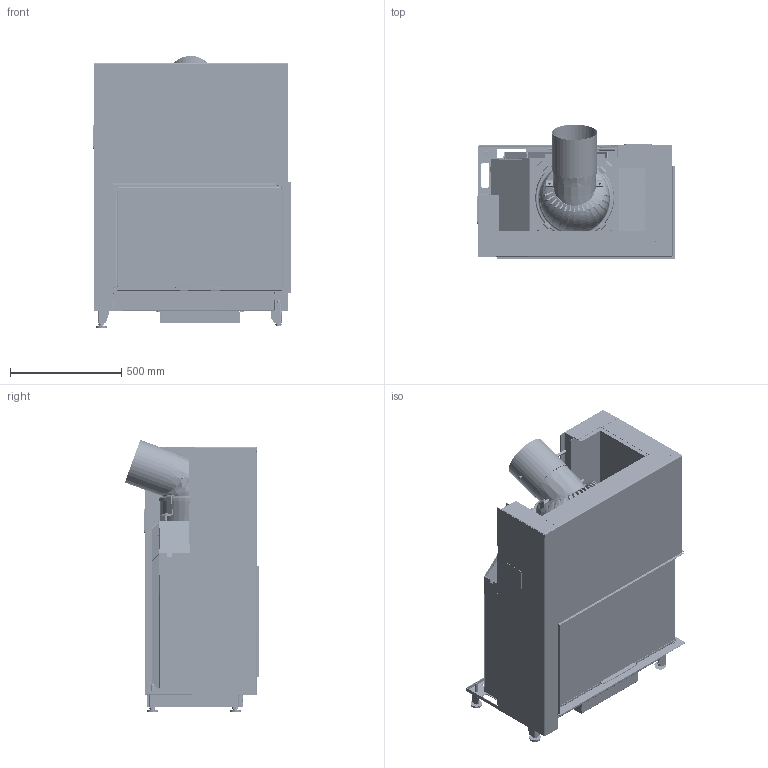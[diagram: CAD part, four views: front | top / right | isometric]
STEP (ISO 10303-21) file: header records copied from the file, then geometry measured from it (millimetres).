
FILE_DESCRIPTION(/* description */ (''),/* implementation_level */ '2;1');
FILE_NAME(/* name */ 'C:\ADSK_DM_WS\CAD_3D\03 Geraete\RII 50x80x42\Zeichnungen\RII_50x80x42_Rechts_ohne_Mantel_Hinten_Gen2_2022-03163.stp',/* time_stamp */ '2022-08-02T13:37:42+02:00',/* author */ ('TIS'),/* organization */ (''),/* preprocessor_version */ 'ST-DEVELOPER v18.1',/* originating_system */ 'Autodesk Inventor 2022',/* authorisation */ '');
FILE_SCHEMA (('AUTOMOTIVE_DESIGN { 1 0 10303 214 3 1 1 }'));
Products named in the file (7): 2022-03163; 2022-03160; 2022-03159; 2022-03158; 2022-03156; 2022-03155; 2022-03154
Assembly tree (6 placements, depth 2):
  2022-03163
    2022-03160
    2022-03159
    2022-03158
    2022-03156
    2022-03155
    2022-03154
Bounding box: 888.9 x 604.92 x 1225.27 mm (x, y, z)
Volume: 47004601.7 mm3; surface area: 17051819.3 mm2
Topology: 21 solids, 32 shells, 9275 faces, 24483 edges, 15178 vertices
Faces by surface type: plane 5676, cylinder 3102, bspline 234, cone 182, torus 65, sphere 16
Full cylindrical faces by diameter (mm): 3 x2, 3.242 x6, 4.5 x4, 4.8 x10, 5 x1, 6 x4, 7.5 x1, 7.9 x1, 8 x8, 9 x4, 9.5 x10, 10 x7, 10.21 x2, 11.192 x4, 11.4 x6, 12 x2, 14.63 x1, 16 x16, 20 x4, 30 x4, 60 x2, 163 x1, 333 x1, 339 x1
Entity records: 303212 total; most frequent: CARTESIAN_POINT 61194, ORIENTED_EDGE 48928, DIRECTION 48692, EDGE_CURVE 24511, AXIS2_PLACEMENT_3D 16231, LINE 16230, VECTOR 16230, VERTEX_POINT 15180
